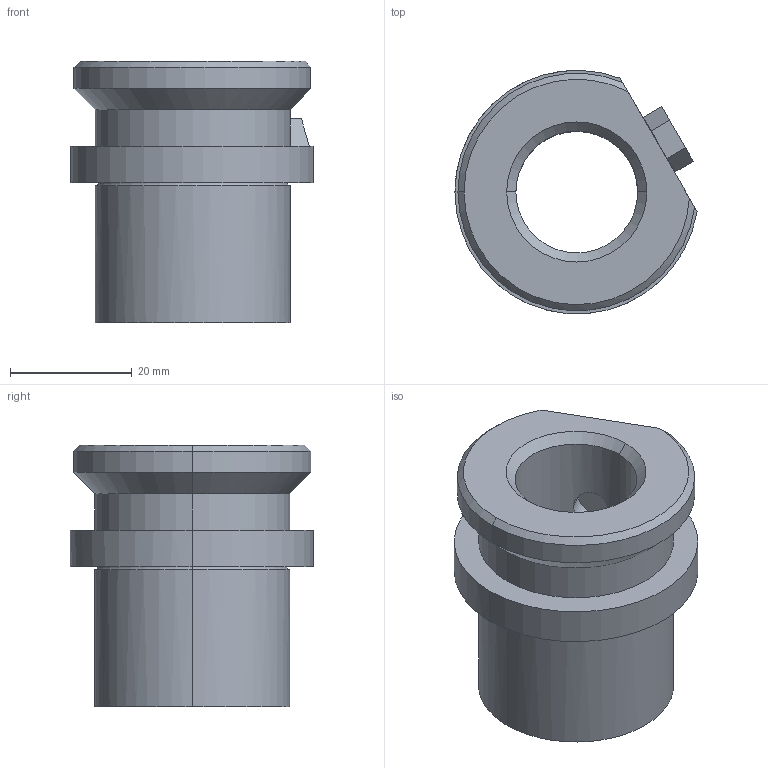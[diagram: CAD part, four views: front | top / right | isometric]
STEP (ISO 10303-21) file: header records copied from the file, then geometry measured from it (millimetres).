
FILE_DESCRIPTION(('CATIA V5 STEP Exchange'),'2;1');
FILE_NAME('C:\Users\Utente\Desktop\IO LAVORO\3D X SITO CF\X SITO\741\741-20.stp','2021-01-20T18:45:33+00:00',('none'),('none'),'CATIA Version 5 Release 20 GA (IN-10)','CATIA V5 STEP AP203','none');
FILE_SCHEMA(('CONFIG_CONTROL_DESIGN'));
Length unit declared in the file: millimetre
Products named in the file (1): 741-20
Assembly tree (1 placements, depth 2):
  741-20
    #58
Bounding box: 39.74 x 39.93 x 43 mm (x, y, z)
Volume: 25252.4 mm3; surface area: 9673.5 mm2
Topology: 1 solids, 1 shells, 43 faces, 102 edges, 64 vertices
Faces by surface type: cylinder 15, plane 14, cone 9, torus 5
Entity records: 1468 total; most frequent: CARTESIAN_POINT 466, ORIENTED_EDGE 202, DIRECTION 168, EDGE_CURVE 101, AXIS2_PLACEMENT_3D 78, VERTEX_POINT 64, VECTOR 48, LINE 48
